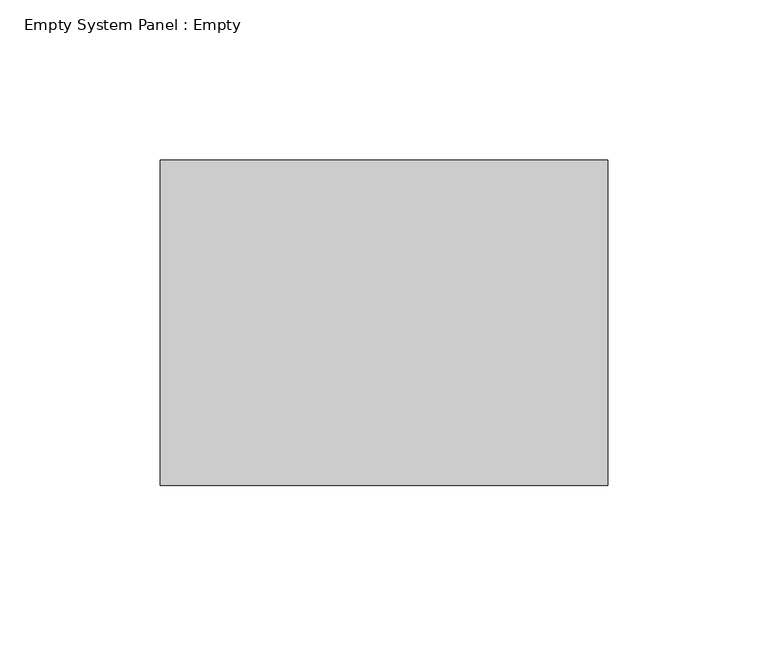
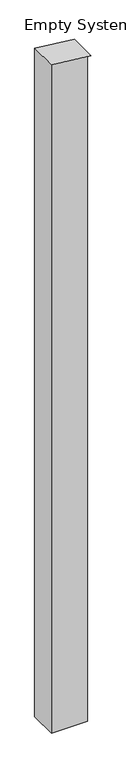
"""IFC4 building model written with IfcOpenShell, lengths in millimetres: plate geometry, Empty System Panel : Empty."""

from ifc_helpers import new_model, si_unit, frame, origin, place, context, project, spatial, polyline, outline, extrude, source, transform, mapped, element, save


def empty_system_panel_empty_b8734470(model_context):
    return source(origin(), model_context, "Body", "SweptSolid", [
        extrude(outline(polyline([(0.0, -69.85), (0.0, 57.15), (2468.6261016, 57.15), (2468.6261016, 69.85), (2484.2512916, -69.85), (0.0, -69.85)])), frame((0.0, -50.8, 0.0), z_axis=(0.0, 1.0, 0.0), x_axis=(0.0, 0.0, 1.0)), (0.0, 0.0, 1.0), 101.6),
    ])


if __name__ == "__main__":
    model = new_model("IFC4")
    model_context = context("Model", 3, world=origin())
    ifc_project = project(units=[si_unit("LENGTHUNIT", "METRE", prefix="MILLI")], contexts=[model_context])
    site = spatial("IfcSite", under=ifc_project)
    building = spatial("IfcBuilding", under=site)
    placement = place(None, origin())
    empty_system_panel_empty_shape = empty_system_panel_empty_b8734470(model_context)
    element("IfcPlate", 1, ObjectType="Empty System Panel : Empty", at=placement, inside=building, context=model_context, shape_type="MappedRepresentation", body=[
        mapped(empty_system_panel_empty_shape, transform((0.0, 0.0, 0.0), x_axis=(1.0, 0.0, 0.0), y_axis=(0.0, 1.0, 0.0), z_axis=(0.0, 0.0, 1.0))),
    ])
    save(model, "model.ifc")
